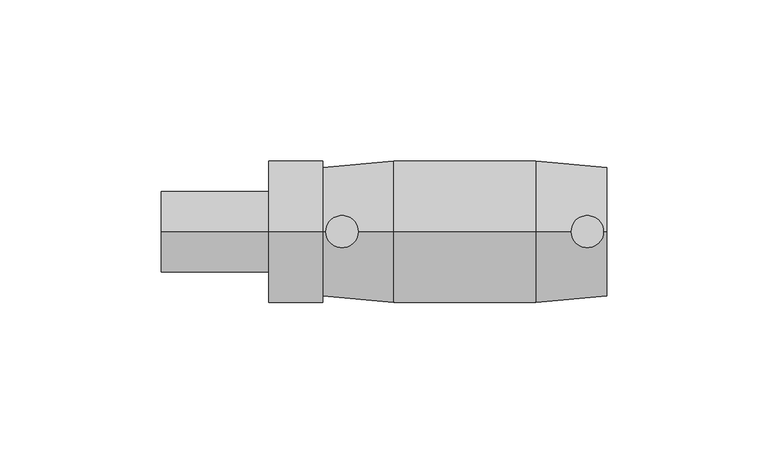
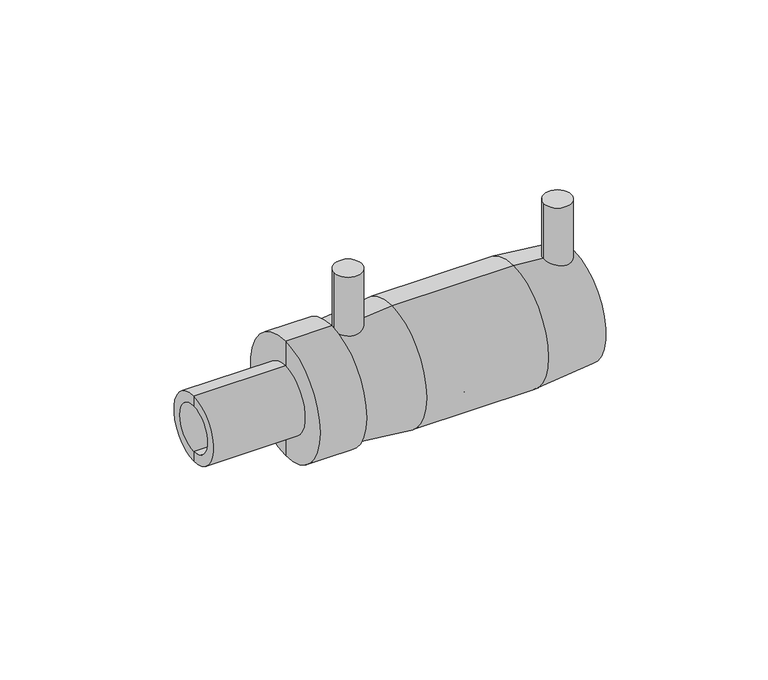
"""IFC4 building model written with IfcOpenShell, lengths in millimetres: pipe fitting geometry, Plumbing_Pipe-Fittings_Plasson_Male-Transition-Coupler_492104N : Plumbing_Pipe-Fittings_Plasson_Male-Transition-Coupler_492104N."""

from ifc_helpers import new_model, si_unit, point, frame, frame_2d, origin, place, context, project, spatial, polyline, circle_curve, trimmed, segment, composite_curve, outline, extrude, source, transform, mapped, element, save
from ifc_brep_helpers import plane_surface, cylinder_surface, revolved_surface, advanced_brep


def pipe_fitting_0589dd84(model_context):
    return source(origin(), model_context, "Body", "SolidModel", [
        advanced_brep(
        [(-44.0, 0.0, -11.0), (-44.0, 0.0, 11.0), (-44.0, 0.0, 16.0), (-44.0, 0.0, -16.0), (-2.0, 0.0, -11.0), (-2.0, 0.0, 11.0), (-2.0, 0.0, -16.0), (-2.0, 0.0, 16.0)],
        [
            (0, 1, circle_curve(frame((-44.0, 0.0, 0.0), z_axis=(1.0, 0.0, 0.0), x_axis=(0.0, 0.0, 1.0)), 11.0)),
            (1, 2),
            (2, 3, circle_curve(frame((-44.0, 0.0, 0.0), z_axis=(-1.0, 0.0, 0.0), x_axis=(0.0, 0.0, 1.0)), 16.0)),
            (3, 0),
            (1, 0, circle_curve(frame((-44.0, 0.0, 0.0), z_axis=(1.0, 0.0, 0.0), x_axis=(0.0, 0.0, 1.0)), 11.0)),
            (3, 2, circle_curve(frame((-44.0, 0.0, 0.0), z_axis=(-1.0, 0.0, 0.0), x_axis=(0.0, 0.0, 1.0)), 16.0)),
            (4, 5, circle_curve(frame((-2.0, 0.0, 0.0), z_axis=(1.0, 0.0, 0.0), x_axis=(0.0, 0.0, 1.0)), 11.0)),
            (5, 1),
            (0, 4),
            (5, 4, circle_curve(frame((-2.0, 0.0, 0.0), z_axis=(1.0, 0.0, 0.0), x_axis=(0.0, 0.0, 1.0)), 11.0)),
            (6, 7, circle_curve(frame((-2.0, 0.0, 0.0), z_axis=(1.0, 0.0, 0.0), x_axis=(0.0, 0.0, 1.0)), 16.0)),
            (7, 5),
            (4, 6),
            (7, 6, circle_curve(frame((-2.0, 0.0, 0.0), z_axis=(1.0, 0.0, 0.0), x_axis=(0.0, 0.0, 1.0)), 16.0)),
            (2, 7),
            (6, 3),
        ],
        [
            plane_surface(frame((-44.0, 0.0, 0.0), z_axis=(-1.0, 0.0, 0.0), x_axis=(0.0, 0.0, 1.0))),
            revolved_surface(polyline([(-44.0, 0.0, 11.0), (-2.0, 0.0, 11.0)]), (-44.0, 0.0, 0.0), (-1.0, 0.0, 0.0)),
            plane_surface(frame((-2.0, 0.0, 0.0), z_axis=(1.0, 0.0, 0.0), x_axis=(0.0, 0.0, 1.0))),
            cylinder_surface(frame((-44.0, 0.0, 0.0), z_axis=(-1.0, 0.0, 0.0), x_axis=(0.0, 0.0, 1.0)), 16.0),
        ],
        [
            (0, [[1, 2, 3, 4]]),
            (0, [[5, -4, 6, -2]]),
            (1, [[7, 8, -1, 9]]),
            (1, [[10, -9, -5, -8]]),
            (2, [[11, 12, -7, 13]]),
            (2, [[14, -13, -10, -12]]),
            (3, [[-3, 15, -11, 16]]),
            (3, [[-6, -16, -14, -15]]),
        ],
    ),
        advanced_brep(
        [(-44.0, 0.0, -8.75), (-44.0, 0.0, 8.75), (-94.0, 0.0, 8.75), (-94.0, 0.0, -8.75), (-44.0, 0.0, -22.0), (-44.0, 0.0, 22.0), (-60.6666667, 0.0, -22.0), (-60.6666667, 0.0, 22.0), (-60.6666667, 0.0, -12.5), (-60.6666667, 0.0, 12.5), (-94.0, 0.0, -12.5), (-94.0, 0.0, 12.5)],
        [
            (0, 1, circle_curve(frame((-44.0, 0.0, 0.0), z_axis=(1.0, 0.0, 0.0), x_axis=(0.0, 0.0, 1.0)), 8.75)),
            (1, 2),
            (2, 3, circle_curve(frame((-94.0, 0.0, 0.0), z_axis=(-1.0, 0.0, 0.0), x_axis=(0.0, 0.0, 1.0)), 8.75)),
            (3, 0),
            (1, 0, circle_curve(frame((-44.0, 0.0, 0.0), z_axis=(1.0, 0.0, 0.0), x_axis=(0.0, 0.0, 1.0)), 8.75)),
            (3, 2, circle_curve(frame((-94.0, 0.0, 0.0), z_axis=(-1.0, 0.0, 0.0), x_axis=(0.0, 0.0, 1.0)), 8.75)),
            (4, 5, circle_curve(frame((-44.0, 0.0, 0.0), z_axis=(1.0, 0.0, 0.0), x_axis=(0.0, 0.0, 1.0)), 22.0)),
            (5, 1),
            (0, 4),
            (5, 4, circle_curve(frame((-44.0, 0.0, 0.0), z_axis=(1.0, 0.0, 0.0), x_axis=(0.0, 0.0, 1.0)), 22.0)),
            (6, 7, circle_curve(frame((-60.6666667, 0.0, 0.0), z_axis=(1.0, 0.0, 0.0), x_axis=(0.0, 0.0, 1.0)), 22.0)),
            (7, 5),
            (4, 6),
            (7, 6, circle_curve(frame((-60.6666667, 0.0, 0.0), z_axis=(1.0, 0.0, 0.0), x_axis=(0.0, 0.0, 1.0)), 22.0)),
            (8, 9, circle_curve(frame((-60.6666667, 0.0, 0.0), z_axis=(1.0, 0.0, 0.0), x_axis=(0.0, 0.0, 1.0)), 12.5)),
            (9, 7),
            (6, 8),
            (9, 8, circle_curve(frame((-60.6666667, 0.0, 0.0), z_axis=(1.0, 0.0, 0.0), x_axis=(0.0, 0.0, 1.0)), 12.5)),
            (10, 11, circle_curve(frame((-94.0, 0.0, 0.0), z_axis=(1.0, 0.0, 0.0), x_axis=(0.0, 0.0, 1.0)), 12.5)),
            (11, 9),
            (8, 10),
            (11, 10, circle_curve(frame((-94.0, 0.0, 0.0), z_axis=(1.0, 0.0, 0.0), x_axis=(0.0, 0.0, 1.0)), 12.5)),
            (2, 11),
            (10, 3),
        ],
        [
            revolved_surface(polyline([(-94.0, 0.0, 8.75), (-44.0, 0.0, 8.75)]), (-60.6666667, 0.0, 0.0), (-1.0, 0.0, 0.0)),
            plane_surface(frame((-44.0, 0.0, 0.0), z_axis=(1.0, 0.0, 0.0), x_axis=(0.0, 0.0, 1.0))),
            cylinder_surface(frame((-60.6666667, 0.0, 0.0), z_axis=(-1.0, 0.0, 0.0), x_axis=(0.0, 0.0, 1.0)), 22.0),
            plane_surface(frame((-60.6666667, 0.0, 0.0), z_axis=(-1.0, 0.0, 0.0), x_axis=(0.0, 0.0, 1.0))),
            cylinder_surface(frame((-60.6666667, 0.0, 0.0), z_axis=(-1.0, 0.0, 0.0), x_axis=(0.0, 0.0, 1.0)), 12.5),
            plane_surface(frame((-94.0, 0.0, 0.0), z_axis=(-1.0, 0.0, 0.0), x_axis=(0.0, 0.0, 1.0))),
        ],
        [
            (0, [[1, 2, 3, 4]]),
            (0, [[5, -4, 6, -2]]),
            (1, [[7, 8, -1, 9]]),
            (1, [[10, -9, -5, -8]]),
            (2, [[11, 12, -7, 13]]),
            (2, [[14, -13, -10, -12]]),
            (3, [[15, 16, -11, 17]]),
            (3, [[18, -17, -14, -16]]),
            (4, [[19, 20, -15, 21]]),
            (4, [[22, -21, -18, -20]]),
            (5, [[-3, 23, -19, 24]]),
            (5, [[-6, -24, -22, -23]]),
        ],
    ),
        extrude(outline(composite_curve([segment(trimmed(circle_curve(frame_2d((-38.0, 0.0)), 5.0), [point((-43.0, 0.0))], [point((-33.0, 0.0))], False, "CARTESIAN"), True, "CONTINUOUS"), segment(trimmed(circle_curve(frame_2d((-38.0, 0.0)), 5.0), [point((-33.0, 0.0))], [point((-43.0, 0.0))], False, "CARTESIAN"), True, "CONTINUOUS")], self_intersect=False)), frame((0.0, 0.0, 19.0), z_axis=(0.0, 0.0, 1.0), x_axis=(1.0, 0.0, 0.0)), (0.0, 0.0, 1.0), 23.0),
        extrude(outline(composite_curve([segment(trimmed(circle_curve(frame_2d((38.0, 0.0)), 5.0), [point((33.0, 0.0))], [point((43.0, 0.0))], False, "CARTESIAN"), True, "CONTINUOUS"), segment(trimmed(circle_curve(frame_2d((38.0, 0.0)), 5.0), [point((43.0, 0.0))], [point((33.0, 0.0))], False, "CARTESIAN"), True, "CONTINUOUS")], self_intersect=False)), frame((0.0, 0.0, 19.0), z_axis=(0.0, 0.0, 1.0), x_axis=(1.0, 0.0, 0.0)), (0.0, 0.0, 1.0), 23.0),
        advanced_brep(
        [(-2.0, 0.0, -16.0), (-2.0, 0.0, 16.0), (-44.0, 0.0, 16.0), (-44.0, 0.0, -16.0), (44.0, 0.0, -20.0), (44.0, 0.0, 20.0), (44.0, 0.0, 16.0), (44.0, 0.0, -16.0), (-22.0, 0.0, -22.0), (-22.0, 0.0, 22.0), (22.0, 0.0, 22.0), (22.0, 0.0, -22.0), (-44.0, 0.0, 20.0), (-44.0, 0.0, -20.0), (-2.0, 0.0, -13.0), (-2.0, 0.0, 13.0), (2.0, 0.0, -13.0), (2.0, 0.0, 13.0), (2.0, 0.0, -16.0), (2.0, 0.0, 16.0)],
        [
            (0, 1, circle_curve(frame((-2.0, 0.0, 0.0), z_axis=(1.0, 0.0, 0.0), x_axis=(0.0, 0.0, 1.0)), 16.0)),
            (1, 2),
            (2, 3, circle_curve(frame((-44.0, 0.0, 0.0), z_axis=(-1.0, 0.0, 0.0), x_axis=(0.0, 0.0, 1.0)), 16.0)),
            (3, 0),
            (1, 0, circle_curve(frame((-2.0, 0.0, 0.0), z_axis=(1.0, 0.0, 0.0), x_axis=(0.0, 0.0, 1.0)), 16.0)),
            (3, 2, circle_curve(frame((-44.0, 0.0, 0.0), z_axis=(-1.0, 0.0, 0.0), x_axis=(0.0, 0.0, 1.0)), 16.0)),
            (4, 5, circle_curve(frame((44.0, 0.0, 0.0), z_axis=(1.0, 0.0, 0.0), x_axis=(0.0, 0.0, 1.0)), 20.0)),
            (5, 6),
            (6, 7, circle_curve(frame((44.0, 0.0, 0.0), z_axis=(-1.0, 0.0, 0.0), x_axis=(0.0, 0.0, 1.0)), 16.0)),
            (7, 4),
            (5, 4, circle_curve(frame((44.0, 0.0, 0.0), z_axis=(1.0, 0.0, 0.0), x_axis=(0.0, 0.0, 1.0)), 20.0)),
            (7, 6, circle_curve(frame((44.0, 0.0, 0.0), z_axis=(-1.0, 0.0, 0.0), x_axis=(0.0, 0.0, 1.0)), 16.0)),
            (8, 9, circle_curve(frame((-22.0, 0.0, 0.0), z_axis=(1.0, 0.0, 0.0), x_axis=(0.0, 0.0, 1.0)), 22.0)),
            (9, 10),
            (10, 11, circle_curve(frame((22.0, 0.0, 0.0), z_axis=(-1.0, 0.0, 0.0), x_axis=(0.0, 0.0, 1.0)), 22.0)),
            (11, 8),
            (9, 8, circle_curve(frame((-22.0, 0.0, 0.0), z_axis=(1.0, 0.0, 0.0), x_axis=(0.0, 0.0, 1.0)), 22.0)),
            (11, 10, circle_curve(frame((22.0, 0.0, 0.0), z_axis=(-1.0, 0.0, 0.0), x_axis=(0.0, 0.0, 1.0)), 22.0)),
            (2, 12),
            (12, 13, circle_curve(frame((-44.0, 0.0, 0.0), z_axis=(-1.0, 0.0, 0.0), x_axis=(0.0, 0.0, 1.0)), 20.0)),
            (13, 3),
            (13, 12, circle_curve(frame((-44.0, 0.0, 0.0), z_axis=(-1.0, 0.0, 0.0), x_axis=(0.0, 0.0, 1.0)), 20.0)),
            (10, 5),
            (4, 11),
            (12, 9),
            (8, 13),
            (14, 15, circle_curve(frame((-2.0, 0.0, 0.0), z_axis=(1.0, 0.0, 0.0), x_axis=(0.0, 0.0, 1.0)), 13.0)),
            (15, 1),
            (0, 14),
            (15, 14, circle_curve(frame((-2.0, 0.0, 0.0), z_axis=(1.0, 0.0, 0.0), x_axis=(0.0, 0.0, 1.0)), 13.0)),
            (16, 17, circle_curve(frame((2.0, 0.0, 0.0), z_axis=(1.0, 0.0, 0.0), x_axis=(0.0, 0.0, 1.0)), 13.0)),
            (17, 15),
            (14, 16),
            (17, 16, circle_curve(frame((2.0, 0.0, 0.0), z_axis=(1.0, 0.0, 0.0), x_axis=(0.0, 0.0, 1.0)), 13.0)),
            (18, 19, circle_curve(frame((2.0, 0.0, 0.0), z_axis=(1.0, 0.0, 0.0), x_axis=(0.0, 0.0, 1.0)), 16.0)),
            (19, 17),
            (16, 18),
            (19, 18, circle_curve(frame((2.0, 0.0, 0.0), z_axis=(1.0, 0.0, 0.0), x_axis=(0.0, 0.0, 1.0)), 16.0)),
            (6, 19),
            (18, 7),
        ],
        [
            revolved_surface(polyline([(-44.0, 0.0, 16.0), (-2.0, 0.0, 16.0)]), (-44.0, 0.0, 0.0), (-1.0, 0.0, 0.0)),
            plane_surface(frame((44.0, 0.0, 0.0), z_axis=(1.0, 0.0, 0.0), x_axis=(0.0, 0.0, 1.0))),
            cylinder_surface(frame((-44.0, 0.0, 0.0), z_axis=(-1.0, 0.0, 0.0), x_axis=(0.0, 0.0, 1.0)), 22.0),
            plane_surface(frame((-44.0, 0.0, 0.0), z_axis=(-1.0, 0.0, 0.0), x_axis=(0.0, 0.0, 1.0))),
            revolved_surface(polyline([(44.0, 0.0, 20.0), (22.0, 0.0, 22.0)]), (-44.0, 0.0, 0.0), (-1.0, 0.0, 0.0)),
            revolved_surface(polyline([(-22.0, 0.0, 22.0), (-44.0, 0.0, 20.0)]), (-44.0, 0.0, 0.0), (-1.0, 0.0, 0.0)),
            plane_surface(frame((-2.0, 0.0, 0.0), z_axis=(-1.0, 0.0, 0.0), x_axis=(0.0, 0.0, 1.0))),
            revolved_surface(polyline([(-2.0, 0.0, 13.0), (2.0, 0.0, 13.0)]), (-44.0, 0.0, 0.0), (-1.0, 0.0, 0.0)),
            plane_surface(frame((2.0, 0.0, 0.0), z_axis=(1.0, 0.0, 0.0), x_axis=(0.0, 0.0, 1.0))),
            revolved_surface(polyline([(2.0, 0.0, 16.0), (44.0, 0.0, 16.0)]), (-44.0, 0.0, 0.0), (-1.0, 0.0, 0.0)),
        ],
        [
            (0, [[1, 2, 3, 4]]),
            (0, [[5, -4, 6, -2]]),
            (1, [[7, 8, 9, 10]]),
            (1, [[11, -10, 12, -8]]),
            (2, [[13, 14, 15, 16]]),
            (2, [[17, -16, 18, -14]]),
            (3, [[-3, 19, 20, 21]]),
            (3, [[-6, -21, 22, -19]]),
            (4, [[-15, 23, -7, 24]]),
            (4, [[-18, -24, -11, -23]]),
            (5, [[-20, 25, -13, 26]]),
            (5, [[-22, -26, -17, -25]]),
            (6, [[27, 28, -1, 29]]),
            (6, [[30, -29, -5, -28]]),
            (7, [[31, 32, -27, 33]]),
            (7, [[34, -33, -30, -32]]),
            (8, [[35, 36, -31, 37]]),
            (8, [[38, -37, -34, -36]]),
            (9, [[-9, 39, -35, 40]]),
            (9, [[-12, -40, -38, -39]]),
        ],
    ),
    ])


if __name__ == "__main__":
    model = new_model("IFC4")
    model_context = context("Model", 3, world=origin())
    ifc_project = project(units=[si_unit("LENGTHUNIT", "METRE", prefix="MILLI")], contexts=[model_context])
    site = spatial("IfcSite", under=ifc_project)
    building = spatial("IfcBuilding", under=site)
    placement = place(None, origin())
    pipe_fitting_shape = pipe_fitting_0589dd84(model_context)
    element("IfcPipeFitting", 1, ObjectType="Plumbing_Pipe-Fittings_Plasson_Male-Transition-Coupler_492104N : Plumbing_Pipe-Fittings_Plasson_Male-Transition-Coupler_492104N", at=placement, inside=building, context=model_context, shape_type="MappedRepresentation", body=[
        mapped(pipe_fitting_shape, transform((0.0, 0.0, 0.0), x_axis=(1.0, 0.0, 0.0), y_axis=(0.0, 1.0, 0.0), z_axis=(0.0, 0.0, 1.0))),
    ])
    save(model, "model.ifc")
